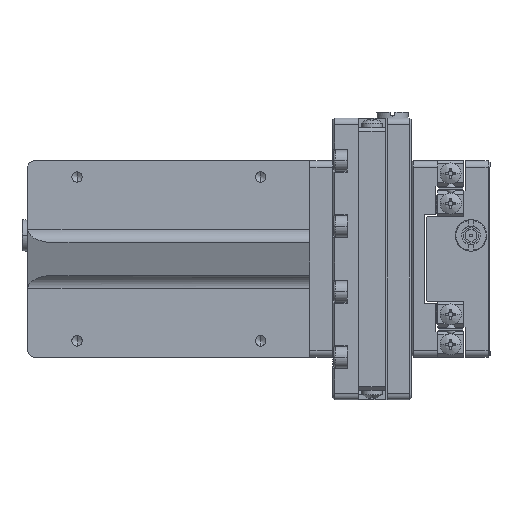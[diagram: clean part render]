
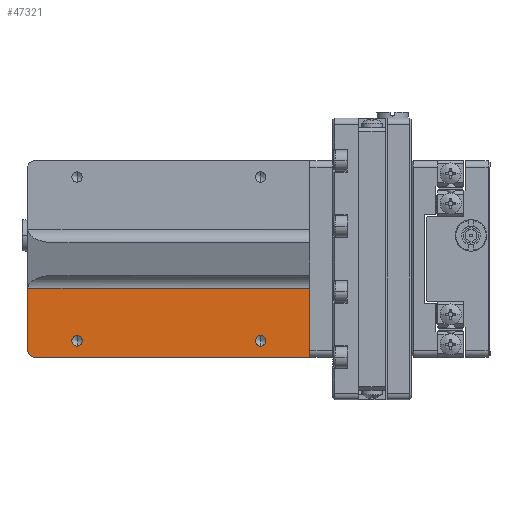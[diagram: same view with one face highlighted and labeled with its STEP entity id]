
A CAD part, left-side view. The second image highlights one B-rep face of the part: STEP entity #47321.
In plain terms, the highlighted planar face has unit normal (-1, 0, 0).
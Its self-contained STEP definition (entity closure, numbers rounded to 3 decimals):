
#104 = VERTEX_POINT ( 'NONE', #55015 ) ;
#981 = EDGE_CURVE ( 'NONE', #78137, #104, #87638, .T. ) ;
#2894 = CARTESIAN_POINT ( 'NONE',  ( 7.5, 27.503, -15. ) ) ;
#3129 = VECTOR ( 'NONE', #88908, 1000. ) ;
#4382 = CARTESIAN_POINT ( 'NONE',  ( 7.5, 69.503, -14. ) ) ;
#5540 = DIRECTION ( 'NONE',  ( 0., 0., -1. ) ) ;
#7444 = DIRECTION ( 'NONE',  ( 1., 0., 0. ) ) ;
#8722 = DIRECTION ( 'NONE',  ( 1., 0., 0. ) ) ;
#9174 = EDGE_CURVE ( 'NONE', #65579, #71361, #81543, .T. ) ;
#9939 = ORIENTED_EDGE ( 'NONE', *, *, #50018, .T. ) ;
#10121 = EDGE_CURVE ( 'NONE', #17687, #116051, #28238, .T. ) ;
#12339 = ORIENTED_EDGE ( 'NONE', *, *, #45247, .T. ) ;
#14492 = VECTOR ( 'NONE', #111796, 1000. ) ;
#15518 = CARTESIAN_POINT ( 'NONE',  ( 7.5, 70.503, -4.5 ) ) ;
#15624 = DIRECTION ( 'NONE',  ( 0., 0., 1. ) ) ;
#17382 = DIRECTION ( 'NONE',  ( 0., 0., 1. ) ) ;
#17640 = VERTEX_POINT ( 'NONE', #89433 ) ;
#17687 = VERTEX_POINT ( 'NONE', #2894 ) ;
#18383 = ORIENTED_EDGE ( 'NONE', *, *, #10121, .F. ) ;
#19794 = CIRCLE ( 'NONE', #21673, 0.8 ) ;
#20291 = PLANE ( 'NONE',  #21135 ) ;
#21135 = AXIS2_PLACEMENT_3D ( 'NONE', #82903, #29286, #109830 ) ;
#21673 = AXIS2_PLACEMENT_3D ( 'NONE', #113454, #60277, #41532 ) ;
#24172 = ORIENTED_EDGE ( 'NONE', *, *, #76710, .F. ) ;
#24568 = CARTESIAN_POINT ( 'NONE',  ( 7.5, 24.003, -15. ) ) ;
#24764 = AXIS2_PLACEMENT_3D ( 'NONE', #45028, #7444, #70473 ) ;
#24987 = EDGE_LOOP ( 'NONE', ( #12339, #102172 ) ) ;
#26320 = FACE_BOUND ( 'NONE', #24987, .T. ) ;
#28238 = LINE ( 'NONE', #24568, #38023 ) ;
#29286 = DIRECTION ( 'NONE',  ( 1., 0., 0. ) ) ;
#30126 = CIRCLE ( 'NONE', #86573, 0.8 ) ;
#30858 = ORIENTED_EDGE ( 'NONE', *, *, #43326, .F. ) ;
#38023 = VECTOR ( 'NONE', #60520, 1000. ) ;
#39141 = ORIENTED_EDGE ( 'NONE', *, *, #112845, .T. ) ;
#40470 = CIRCLE ( 'NONE', #113574, 1. ) ;
#41532 = DIRECTION ( 'NONE',  ( 0., 0., 1. ) ) ;
#43326 = EDGE_CURVE ( 'NONE', #65579, #56853, #44150, .T. ) ;
#44150 = LINE ( 'NONE', #60847, #104247 ) ;
#44492 = FACE_OUTER_BOUND ( 'NONE', #78865, .T. ) ;
#45028 = CARTESIAN_POINT ( 'NONE',  ( 7.5, 35.003, -12.5 ) ) ;
#45247 = EDGE_CURVE ( 'NONE', #104, #78137, #19794, .T. ) ;
#47321 = ADVANCED_FACE ( 'NONE', ( #44492, #48646, #26320 ), #20291, .F. ) ;
#48646 = FACE_BOUND ( 'NONE', #51477, .T. ) ;
#50018 = EDGE_CURVE ( 'NONE', #110241, #17640, #30126, .T. ) ;
#51477 = EDGE_LOOP ( 'NONE', ( #9939, #39141 ) ) ;
#52521 = CARTESIAN_POINT ( 'NONE',  ( 7.5, 63.003, -11.7 ) ) ;
#52984 = DIRECTION ( 'NONE',  ( 0., -1., 0. ) ) ;
#55015 = CARTESIAN_POINT ( 'NONE',  ( 7.5, 35.003, -11.7 ) ) ;
#56853 = VERTEX_POINT ( 'NONE', #115118 ) ;
#57816 = CARTESIAN_POINT ( 'NONE',  ( 7.5, 27.503, 15. ) ) ;
#59787 = CARTESIAN_POINT ( 'NONE',  ( 7.5, 35.003, -13.3 ) ) ;
#60277 = DIRECTION ( 'NONE',  ( 1., 0., 0. ) ) ;
#60520 = DIRECTION ( 'NONE',  ( 0., 1., 0. ) ) ;
#60847 = CARTESIAN_POINT ( 'NONE',  ( 7.5, 27.503, -4.5 ) ) ;
#65579 = VERTEX_POINT ( 'NONE', #15518 ) ;
#67555 = ORIENTED_EDGE ( 'NONE', *, *, #97669, .F. ) ;
#70473 = DIRECTION ( 'NONE',  ( 0., 0., 1. ) ) ;
#71361 = VERTEX_POINT ( 'NONE', #103489 ) ;
#73652 = ORIENTED_EDGE ( 'NONE', *, *, #9174, .T. ) ;
#76649 = CARTESIAN_POINT ( 'NONE',  ( 7.5, 63.003, -12.5 ) ) ;
#76710 = EDGE_CURVE ( 'NONE', #116051, #71361, #40470, .T. ) ;
#78137 = VERTEX_POINT ( 'NONE', #59787 ) ;
#78865 = EDGE_LOOP ( 'NONE', ( #24172, #18383, #67555, #30858, #73652 ) ) ;
#78993 = DIRECTION ( 'NONE',  ( 1., 0., 0. ) ) ;
#81543 = LINE ( 'NONE', #107252, #3129 ) ;
#82903 = CARTESIAN_POINT ( 'NONE',  ( 7.5, 27.503, 15. ) ) ;
#86573 = AXIS2_PLACEMENT_3D ( 'NONE', #76649, #78993, #15624 ) ;
#87638 = CIRCLE ( 'NONE', #24764, 0.8 ) ;
#88908 = DIRECTION ( 'NONE',  ( 0., 0., -1. ) ) ;
#89433 = CARTESIAN_POINT ( 'NONE',  ( 7.5, 63.003, -13.3 ) ) ;
#95552 = AXIS2_PLACEMENT_3D ( 'NONE', #107301, #8722, #17382 ) ;
#97669 = EDGE_CURVE ( 'NONE', #56853, #17687, #115247, .T. ) ;
#102172 = ORIENTED_EDGE ( 'NONE', *, *, #981, .T. ) ;
#103489 = CARTESIAN_POINT ( 'NONE',  ( 7.5, 70.503, -14. ) ) ;
#104180 = CARTESIAN_POINT ( 'NONE',  ( 7.5, 69.503, -15. ) ) ;
#104247 = VECTOR ( 'NONE', #52984, 1000. ) ;
#107252 = CARTESIAN_POINT ( 'NONE',  ( 7.5, 70.503, 15. ) ) ;
#107301 = CARTESIAN_POINT ( 'NONE',  ( 7.5, 63.003, -12.5 ) ) ;
#109830 = DIRECTION ( 'NONE',  ( 0., 1., 0. ) ) ;
#110241 = VERTEX_POINT ( 'NONE', #52521 ) ;
#111796 = DIRECTION ( 'NONE',  ( 0., 0., -1. ) ) ;
#112369 = DIRECTION ( 'NONE',  ( 1., 0., 0. ) ) ;
#112845 = EDGE_CURVE ( 'NONE', #17640, #110241, #116042, .T. ) ;
#113454 = CARTESIAN_POINT ( 'NONE',  ( 7.5, 35.003, -12.5 ) ) ;
#113574 = AXIS2_PLACEMENT_3D ( 'NONE', #4382, #112369, #5540 ) ;
#115118 = CARTESIAN_POINT ( 'NONE',  ( 7.5, 27.503, -4.5 ) ) ;
#115247 = LINE ( 'NONE', #57816, #14492 ) ;
#116042 = CIRCLE ( 'NONE', #95552, 0.8 ) ;
#116051 = VERTEX_POINT ( 'NONE', #104180 ) ;
